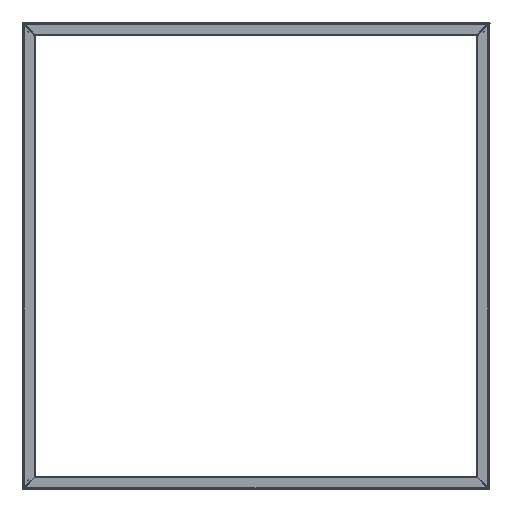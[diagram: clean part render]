
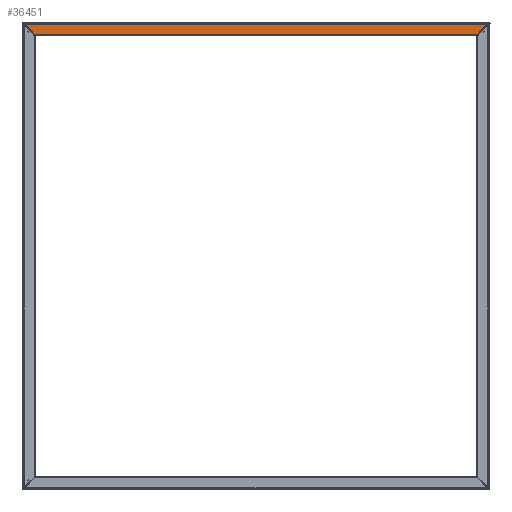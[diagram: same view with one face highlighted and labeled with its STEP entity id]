
A CAD part, top view. The second image highlights one B-rep face of the part: STEP entity #36451.
In plain terms, the highlighted planar face has unit normal (0, 0, 1).
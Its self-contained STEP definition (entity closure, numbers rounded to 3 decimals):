
#2005=LINE('',#52176,#4813);
#2006=LINE('',#52179,#4814);
#2007=LINE('',#52181,#4815);
#2008=LINE('',#52183,#4816);
#4813=VECTOR('',#42802,1000.);
#4814=VECTOR('',#42803,1000.);
#4815=VECTOR('',#42804,1000.);
#4816=VECTOR('',#42805,1000.);
#9703=ORIENTED_EDGE('',*,*,#16739,.F.);
#9704=ORIENTED_EDGE('',*,*,#16740,.F.);
#9705=ORIENTED_EDGE('',*,*,#16741,.T.);
#9706=ORIENTED_EDGE('',*,*,#16742,.T.);
#16739=EDGE_CURVE('',#20427,#20428,#2005,.T.);
#16740=EDGE_CURVE('',#20429,#20427,#2006,.T.);
#16741=EDGE_CURVE('',#20429,#20430,#2007,.T.);
#16742=EDGE_CURVE('',#20430,#20428,#2008,.T.);
#20427=VERTEX_POINT('',#52177);
#20428=VERTEX_POINT('',#52178);
#20429=VERTEX_POINT('',#52180);
#20430=VERTEX_POINT('',#52182);
#23505=EDGE_LOOP('',(#9703,#9704,#9705,#9706));
#25415=FACE_BOUND('',#23505,.T.);
#26969=PLANE('',#38382);
#36451=ADVANCED_FACE('',(#25415),#26969,.T.);
#38382=AXIS2_PLACEMENT_3D('',#52175,#42800,#42801);
#42800=DIRECTION('',(0.,0.,1.));
#42801=DIRECTION('',(0.,1.,0.));
#42802=DIRECTION('',(-0.707,0.707,0.));
#42803=DIRECTION('',(-1.,0.,0.));
#42804=DIRECTION('',(0.707,0.707,0.));
#42805=DIRECTION('',(-1.,0.,0.));
#52175=CARTESIAN_POINT('',(19.,1252.45,15.));
#52176=CARTESIAN_POINT('',(-1237.,1252.75,15.));
#52177=CARTESIAN_POINT('',(-1204.8,1220.55,15.));
#52178=CARTESIAN_POINT('',(-1236.7,1252.45,15.));
#52179=CARTESIAN_POINT('',(19.,1220.55,15.));
#52180=CARTESIAN_POINT('',(-13.2,1220.55,15.));
#52181=CARTESIAN_POINT('',(-13.5,1220.25,15.));
#52182=CARTESIAN_POINT('',(18.7,1252.45,15.));
#52183=CARTESIAN_POINT('',(19.,1252.45,15.));
